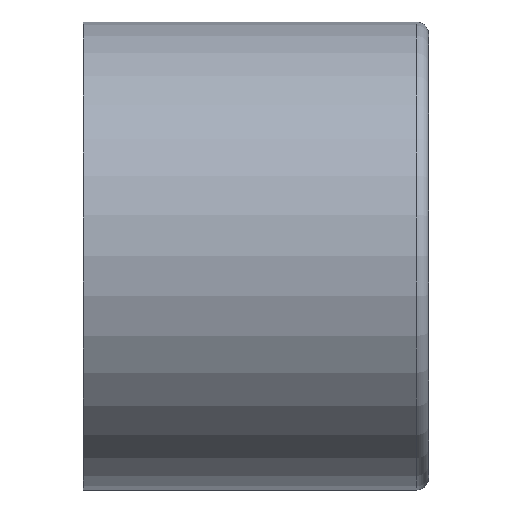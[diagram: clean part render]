
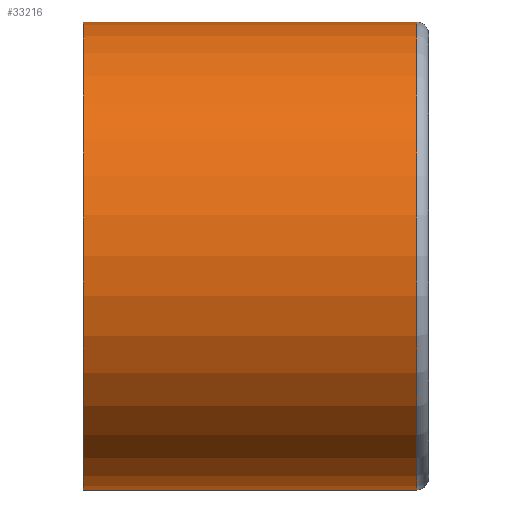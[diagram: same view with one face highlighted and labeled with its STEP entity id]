
A CAD part, top view. The second image highlights one B-rep face of the part: STEP entity #33216.
In plain terms, the highlighted cylindrical face has radius 29.3 mm (diameter 58.6 mm), a partial arc.
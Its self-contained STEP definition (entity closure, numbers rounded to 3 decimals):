
#237 = LINE ( 'NONE', #45773, #40594 ) ;
#4647 = ORIENTED_EDGE ( 'NONE', *, *, #16211, .F. ) ;
#6565 = AXIS2_PLACEMENT_3D ( 'NONE', #32887, #47477, #36412 ) ;
#7762 = AXIS2_PLACEMENT_3D ( 'NONE', #20771, #31760, #35619 ) ;
#8005 = CYLINDRICAL_SURFACE ( 'NONE', #7762, 29.3 ) ;
#8046 = ORIENTED_EDGE ( 'NONE', *, *, #24150, .F. ) ;
#9524 = CARTESIAN_POINT ( 'NONE',  ( -1.5, 0., 0. ) ) ;
#12372 = CARTESIAN_POINT ( 'NONE',  ( -43.2, -29.3, 0. ) ) ;
#13105 = DIRECTION ( 'NONE',  ( 1., 0., 0. ) ) ;
#13218 = AXIS2_PLACEMENT_3D ( 'NONE', #9524, #27961, #35350 ) ;
#16211 = EDGE_CURVE ( 'NONE', #45059, #26102, #32986, .T. ) ;
#16381 = CIRCLE ( 'NONE', #13218, 29.3 ) ;
#18223 = VERTEX_POINT ( 'NONE', #47594 ) ;
#19608 = EDGE_CURVE ( 'NONE', #33887, #18223, #16381, .T. ) ;
#20287 = VECTOR ( 'NONE', #25958, 1000. ) ;
#20771 = CARTESIAN_POINT ( 'NONE',  ( -43.2, 0., 0. ) ) ;
#22195 = CARTESIAN_POINT ( 'NONE',  ( -43.2, 29.3, 0. ) ) ;
#24031 = EDGE_LOOP ( 'NONE', ( #8046, #4647, #36724, #45071 ) ) ;
#24150 = EDGE_CURVE ( 'NONE', #26102, #18223, #237, .T. ) ;
#25958 = DIRECTION ( 'NONE',  ( 1., 0., 0. ) ) ;
#26102 = VERTEX_POINT ( 'NONE', #22195 ) ;
#27961 = DIRECTION ( 'NONE',  ( -1., 0., 0. ) ) ;
#28995 = EDGE_CURVE ( 'NONE', #45059, #33887, #29556, .T. ) ;
#29556 = LINE ( 'NONE', #36568, #20287 ) ;
#31760 = DIRECTION ( 'NONE',  ( 1., 0., 0. ) ) ;
#32887 = CARTESIAN_POINT ( 'NONE',  ( -43.2, 0., 0. ) ) ;
#32986 = CIRCLE ( 'NONE', #6565, 29.3 ) ;
#33216 = ADVANCED_FACE ( 'NONE', ( #43692 ), #8005, .T. ) ;
#33887 = VERTEX_POINT ( 'NONE', #36186 ) ;
#35350 = DIRECTION ( 'NONE',  ( 0., 1., 0. ) ) ;
#35619 = DIRECTION ( 'NONE',  ( 0., -1., 0. ) ) ;
#36186 = CARTESIAN_POINT ( 'NONE',  ( -1.5, -29.3, 0. ) ) ;
#36412 = DIRECTION ( 'NONE',  ( 0., 1., 0. ) ) ;
#36568 = CARTESIAN_POINT ( 'NONE',  ( -43.2, -29.3, 0. ) ) ;
#36724 = ORIENTED_EDGE ( 'NONE', *, *, #28995, .T. ) ;
#40594 = VECTOR ( 'NONE', #13105, 1000. ) ;
#43692 = FACE_OUTER_BOUND ( 'NONE', #24031, .T. ) ;
#45059 = VERTEX_POINT ( 'NONE', #12372 ) ;
#45071 = ORIENTED_EDGE ( 'NONE', *, *, #19608, .T. ) ;
#45773 = CARTESIAN_POINT ( 'NONE',  ( -43.2, 29.3, 0. ) ) ;
#47477 = DIRECTION ( 'NONE',  ( -1., 0., 0. ) ) ;
#47594 = CARTESIAN_POINT ( 'NONE',  ( -1.5, 29.3, 0. ) ) ;
